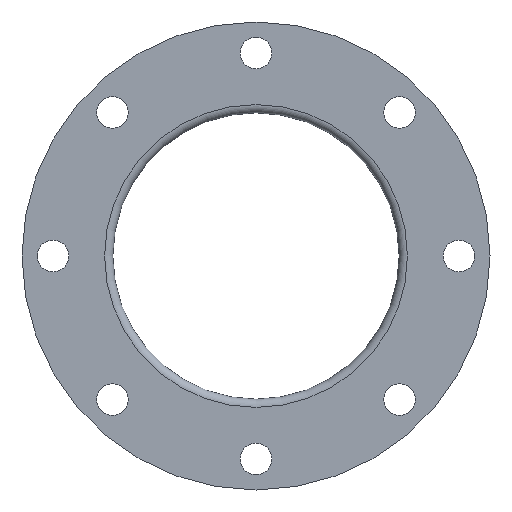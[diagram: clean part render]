
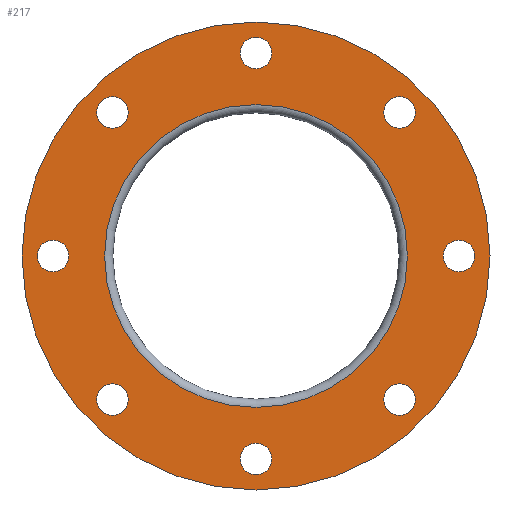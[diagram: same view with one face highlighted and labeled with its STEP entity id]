
A CAD part, front view. The second image highlights one B-rep face of the part: STEP entity #217.
In plain terms, the highlighted planar face has unit normal (0, -1, 0).
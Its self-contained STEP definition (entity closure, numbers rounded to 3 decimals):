
#13=PLANE($,#236);
#27=FACE_BOUND($,#72,.T.);
#28=FACE_BOUND($,#73,.T.);
#29=FACE_BOUND($,#74,.T.);
#30=FACE_BOUND($,#75,.T.);
#31=FACE_BOUND($,#76,.T.);
#32=FACE_BOUND($,#77,.T.);
#33=FACE_BOUND($,#78,.T.);
#34=FACE_BOUND($,#79,.T.);
#35=FACE_BOUND($,#80,.T.);
#57=FACE_OUTER_BOUND($,#71,.T.);
#71=EDGE_LOOP($,(#176));
#72=EDGE_LOOP($,(#177));
#73=EDGE_LOOP($,(#178));
#74=EDGE_LOOP($,(#179));
#75=EDGE_LOOP($,(#180));
#76=EDGE_LOOP($,(#181));
#77=EDGE_LOOP($,(#182));
#78=EDGE_LOOP($,(#183));
#79=EDGE_LOOP($,(#184));
#80=EDGE_LOOP($,(#185));
#110=CIRCLE($,#233,110.);
#112=CIRCLE($,#237,170.);
#113=CIRCLE($,#238,11.5);
#114=CIRCLE($,#239,11.5);
#115=CIRCLE($,#240,11.5);
#116=CIRCLE($,#241,11.5);
#117=CIRCLE($,#242,11.5);
#118=CIRCLE($,#243,11.5);
#119=CIRCLE($,#244,11.5);
#120=CIRCLE($,#245,11.5);
#131=VERTEX_POINT($,#339);
#133=VERTEX_POINT($,#345);
#134=VERTEX_POINT($,#347);
#135=VERTEX_POINT($,#349);
#136=VERTEX_POINT($,#351);
#137=VERTEX_POINT($,#353);
#138=VERTEX_POINT($,#355);
#139=VERTEX_POINT($,#357);
#140=VERTEX_POINT($,#359);
#141=VERTEX_POINT($,#361);
#152=EDGE_CURVE($,#131,#131,#110,.T.);
#154=EDGE_CURVE($,#133,#133,#112,.T.);
#155=EDGE_CURVE($,#134,#134,#113,.T.);
#156=EDGE_CURVE($,#135,#135,#114,.T.);
#157=EDGE_CURVE($,#136,#136,#115,.T.);
#158=EDGE_CURVE($,#137,#137,#116,.T.);
#159=EDGE_CURVE($,#138,#138,#117,.T.);
#160=EDGE_CURVE($,#139,#139,#118,.T.);
#161=EDGE_CURVE($,#140,#140,#119,.T.);
#162=EDGE_CURVE($,#141,#141,#120,.T.);
#176=ORIENTED_EDGE($,*,*,#154,.F.);
#177=ORIENTED_EDGE($,*,*,#155,.T.);
#178=ORIENTED_EDGE($,*,*,#156,.T.);
#179=ORIENTED_EDGE($,*,*,#157,.T.);
#180=ORIENTED_EDGE($,*,*,#158,.T.);
#181=ORIENTED_EDGE($,*,*,#159,.T.);
#182=ORIENTED_EDGE($,*,*,#160,.T.);
#183=ORIENTED_EDGE($,*,*,#161,.T.);
#184=ORIENTED_EDGE($,*,*,#162,.T.);
#185=ORIENTED_EDGE($,*,*,#152,.F.);
#217=ADVANCED_FACE($,(#57,#27,#28,#29,#30,#31,#32,#33,#34,#35),#13,.T.);
#233=AXIS2_PLACEMENT_3D($,#340,#271,#272);
#236=AXIS2_PLACEMENT_3D($,#344,#277,#278);
#237=AXIS2_PLACEMENT_3D($,#346,#279,#280);
#238=AXIS2_PLACEMENT_3D($,#348,#281,#282);
#239=AXIS2_PLACEMENT_3D($,#350,#283,#284);
#240=AXIS2_PLACEMENT_3D($,#352,#285,#286);
#241=AXIS2_PLACEMENT_3D($,#354,#287,#288);
#242=AXIS2_PLACEMENT_3D($,#356,#289,#290);
#243=AXIS2_PLACEMENT_3D($,#358,#291,#292);
#244=AXIS2_PLACEMENT_3D($,#360,#293,#294);
#245=AXIS2_PLACEMENT_3D($,#362,#295,#296);
#271=DIRECTION('center_axis',(0.,-1.,0.));
#272=DIRECTION('ref_axis',(1.,0.,0.));
#277=DIRECTION('center_axis',(0.,-1.,0.));
#278=DIRECTION('ref_axis',(0.,0.,-1.));
#279=DIRECTION('center_axis',(0.,1.,0.));
#280=DIRECTION('ref_axis',(-1.,0.,0.));
#281=DIRECTION('center_axis',(0.,1.,0.));
#282=DIRECTION('ref_axis',(1.,0.,0.));
#283=DIRECTION('center_axis',(0.,1.,0.));
#284=DIRECTION('ref_axis',(0.707,0.,-0.707));
#285=DIRECTION('center_axis',(0.,1.,0.));
#286=DIRECTION('ref_axis',(0.,0.,-1.));
#287=DIRECTION('center_axis',(0.,1.,0.));
#288=DIRECTION('ref_axis',(-0.707,0.,-0.707));
#289=DIRECTION('center_axis',(0.,1.,0.));
#290=DIRECTION('ref_axis',(-1.,0.,0.));
#291=DIRECTION('center_axis',(0.,1.,0.));
#292=DIRECTION('ref_axis',(-0.707,0.,0.707));
#293=DIRECTION('center_axis',(0.,1.,0.));
#294=DIRECTION('ref_axis',(0.,0.,1.));
#295=DIRECTION('center_axis',(0.,1.,0.));
#296=DIRECTION('ref_axis',(0.707,0.,0.707));
#339=CARTESIAN_POINT('',(-110.,0.,0.));
#340=CARTESIAN_POINT('Origin',(0.,0.,0.));
#344=CARTESIAN_POINT('Origin',(-85.,0.,0.));
#345=CARTESIAN_POINT('',(-170.,0.,0.));
#346=CARTESIAN_POINT('Origin',(0.,0.,0.));
#347=CARTESIAN_POINT('',(136.,0.,0.));
#348=CARTESIAN_POINT('Origin',(147.5,0.,0.));
#349=CARTESIAN_POINT('',(96.167,0.,-96.167));
#350=CARTESIAN_POINT('Origin',(104.298,0.,-104.298));
#351=CARTESIAN_POINT('',(0.,0.,-136.));
#352=CARTESIAN_POINT('Origin',(0.,0.,-147.5));
#353=CARTESIAN_POINT('',(-96.167,0.,-96.167));
#354=CARTESIAN_POINT('Origin',(-104.298,0.,-104.298));
#355=CARTESIAN_POINT('',(-136.,0.,0.));
#356=CARTESIAN_POINT('Origin',(-147.5,0.,0.));
#357=CARTESIAN_POINT('',(-96.167,0.,96.167));
#358=CARTESIAN_POINT('Origin',(-104.298,0.,104.298));
#359=CARTESIAN_POINT('',(0.,0.,136.));
#360=CARTESIAN_POINT('Origin',(0.,0.,147.5));
#361=CARTESIAN_POINT('',(96.167,0.,96.167));
#362=CARTESIAN_POINT('Origin',(104.298,0.,104.298));
